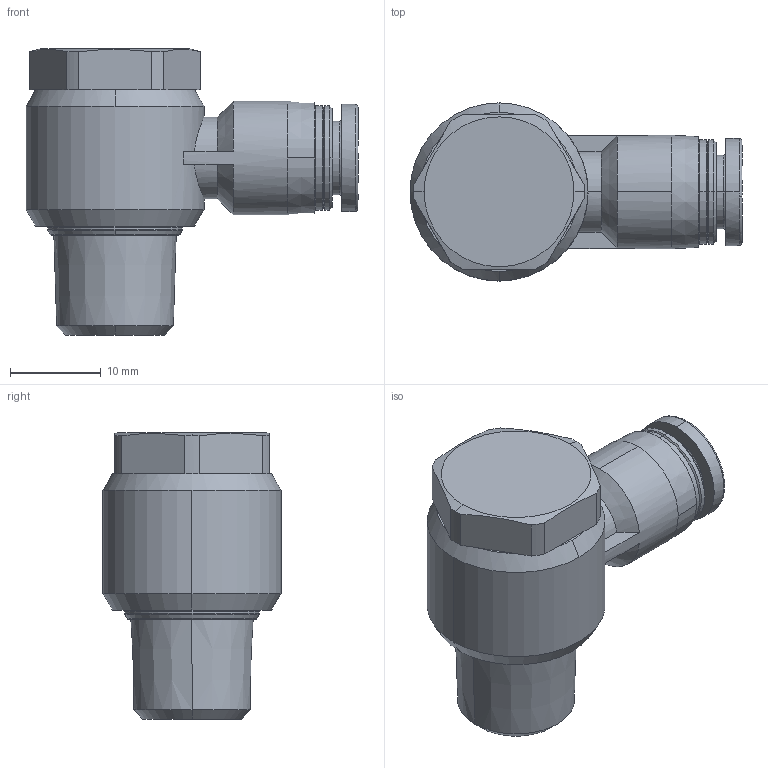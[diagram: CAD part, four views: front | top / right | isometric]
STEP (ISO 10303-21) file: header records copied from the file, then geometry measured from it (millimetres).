
FILE_DESCRIPTION (( 'STEP AP214' ), '1' );
FILE_NAME ('APH6-02.STEP', '2019-12-05T03:44:59', ( '微软用户' ), ( '微软中国' ), 'SwSTEP 2.0', 'SolidWorks 2016', '' );
FILE_SCHEMA (( 'AUTOMOTIVE_DESIGN' ));
Length unit declared in the file: millimetre
Products named in the file (1): APH6-02
Bounding box: 36.55 x 19.6 x 31.5 mm (x, y, z)
Volume: 8513.3 mm3; surface area: 3324.2 mm2
Topology: 1 solids, 1 shells, 98 faces, 236 edges, 147 vertices
Faces by surface type: plane 32, cone 30, cylinder 28, bspline 8
Entity records: 3207 total; most frequent: CARTESIAN_POINT 864, DIRECTION 519, ORIENTED_EDGE 472, EDGE_CURVE 236, AXIS2_PLACEMENT_3D 216, VERTEX_POINT 147, CIRCLE 125, EDGE_LOOP 105
